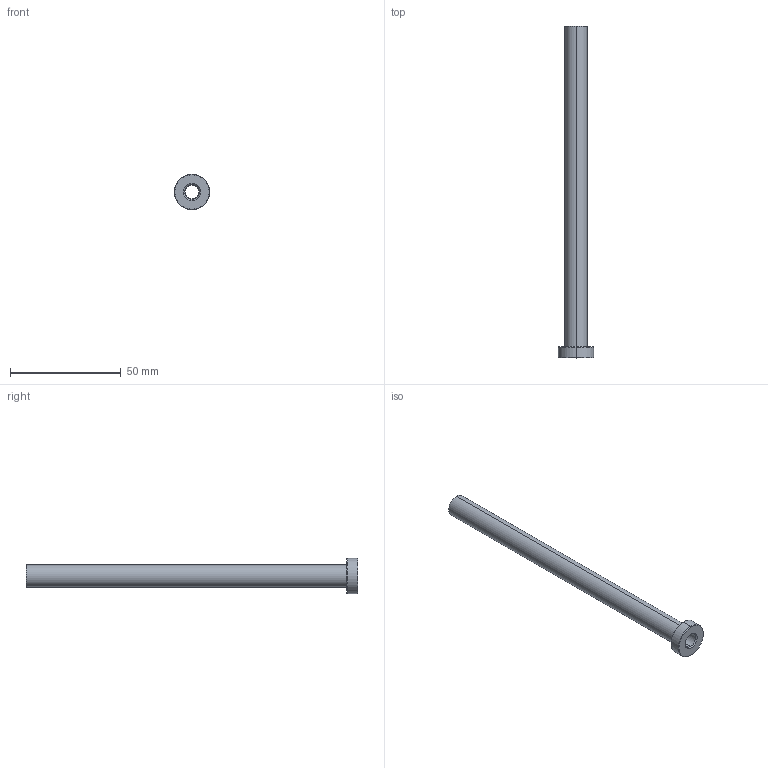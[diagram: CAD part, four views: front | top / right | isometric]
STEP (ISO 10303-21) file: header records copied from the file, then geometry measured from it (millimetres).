
FILE_DESCRIPTION (( 'STEP AP203' ), '1' );
FILE_NAME ('ESD062L150.step', '2022-02-05T03:23:54', ( 'Microsoft Corporation' ), ( 'MS' ), 'SwSTEP 2.0', 'SolidWorks 2019', '' );
FILE_SCHEMA (( 'CONFIG_CONTROL_DESIGN' ));
Length unit declared in the file: millimetre
Products named in the file (1): ESD062L150
Bounding box: 16 x 150 x 16 mm (x, y, z)
Volume: 7359.7 mm3; surface area: 8198.8 mm2
Topology: 1 solids, 1 shells, 21 faces, 42 edges, 24 vertices
Faces by surface type: cone 8, cylinder 8, plane 3, torus 2
Entity records: 627 total; most frequent: DIRECTION 112, CARTESIAN_POINT 88, ORIENTED_EDGE 84, AXIS2_PLACEMENT_3D 48, EDGE_CURVE 42, CIRCLE 26, VERTEX_POINT 24, EDGE_LOOP 24
